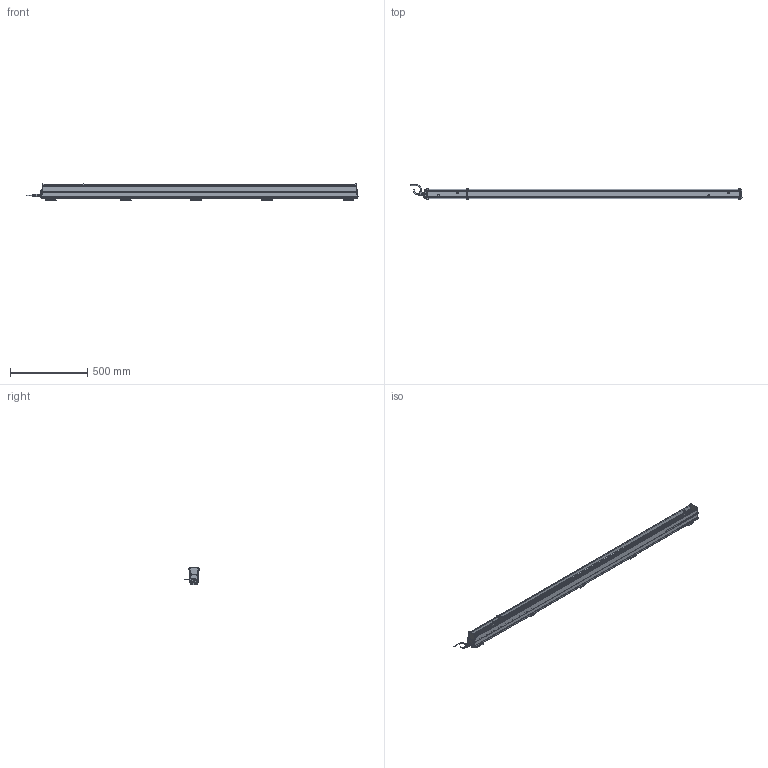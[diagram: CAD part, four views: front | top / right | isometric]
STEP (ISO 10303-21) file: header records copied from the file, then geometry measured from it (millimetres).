
FILE_DESCRIPTION(/* description */ (''),/* implementation_level */ '2;1');
FILE_NAME(/* name */ 'THUNDERION2_3D_1875-2070',/* time_stamp */ '2017-09-28T10:58:41+02:00',/* author */ (''),/* organization */ (''),/* preprocessor_version */ 'ST-DEVELOPER v15.7',/* originating_system */ 'HiCAD 2015 2002.1 Build 408',/* authorisation */ '');
FILE_SCHEMA (('AUTOMOTIVE_DESIGN { 1 0 10303 214 1 1 1 1 }'));
Products named in the file (109): Root; -_ThunderION 1875/2070; -_Side profile; -_Bar; -_Connector straight; EXTRUDED SOLID_0; -_Cord; REVOLVED SOLID_1; REVOLVED SOLID_3; DIN 13-M12x1,5; -_Connector angled; REVOLVED SOLID_2; 4532000100_Mounting bracket bars; -_Side piece; -_Slide piece; -_Bracket small; DIN 13-M3; DIN 76-M3; -_Cable End; light pipe M; light pipe L; -_Cap CE; -_Stud M4; -_Connector M12 male 5 pole_1; -_Contacts; ABSR_1_2_1_1_Inner part; ABSR_1_2_1_2_Inner part; bus; Pg 9; -_Ring tongue terminal; 9230000020_Nut M4; GEWINDE; 9240100020_Spring washer M4; ISO 7051-ST3.5x9.5-C-H_Tapping screws_0; -_Fill; -_Dead end; -_Cap DE; -_Emitter; -_Support Side Profile; -_End Plate
Assembly tree (108 placements, depth 6):
  Root
    -_ThunderION 1875/2070
      -_Side profile
      -_Side profile
      -_Bar
      -_Connector straight
        EXTRUDED SOLID_0
        -_Cord
        REVOLVED SOLID_1
        REVOLVED SOLID_3
          DIN 13-M12x1,5
      -_Connector angled
        REVOLVED SOLID_1
        EXTRUDED SOLID_0
        -_Cord
        REVOLVED SOLID_2
        REVOLVED SOLID_3
          DIN 13-M12x1,5
      4532000100_Mounting bracket bars
        -_Side piece
        -_Side piece
        -_Slide piece
        -_Bracket small
          DIN 13-M3
          DIN 13-M3
          DIN 76-M3
          DIN 76-M3
      4532000100_Mounting bracket bars
        -_Side piece
        -_Side piece
        -_Slide piece
        -_Bracket small
          DIN 13-M3
          DIN 13-M3
          DIN 76-M3
          DIN 76-M3
      4532000100_Mounting bracket bars
        -_Side piece
        -_Side piece
        -_Slide piece
        -_Bracket small
          DIN 13-M3
          DIN 13-M3
          DIN 76-M3
          DIN 76-M3
      4532000100_Mounting bracket bars
        -_Side piece
        -_Side piece
        -_Slide piece
        -_Bracket small
          DIN 13-M3
          DIN 13-M3
          DIN 76-M3
          DIN 76-M3
      4532000100_Mounting bracket bars
        -_Side piece
        -_Side piece
        -_Slide piece
        -_Bracket small
          DIN 13-M3
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Bounding box: 2148.34 x 92.24 x 113 mm (x, y, z)
Volume: 6539151.6 mm3; surface area: 1528151.3 mm2
Topology: 101 solids, 116 shells, 4832 faces, 12403 edges, 7551 vertices
Faces by surface type: plane 2050, cylinder 1878, bspline 280, torus 241, sphere 214, cone 169
Full cylindrical faces by diameter (mm): 0.8 x10, 1 x10, 2.387 x20, 2.5 x1, 2.64 x16, 3 x40, 3.141 x2, 3.5 x8, 4 x26, 4.2 x3, 4.4 x1, 5 x4, 5.5 x25, 7.3 x8, 8 x2, 8.4 x2, 9 x6, 9.6 x1, 10 x2, 10.16 x1, 10.5 x2, 11 x4, 12 x5, 12.8 x1, 13.8 x4, 13.86 x1, 14.5 x3, 15.199 x1, 15.2 x1
Entity records: 292386 total; most frequent: CARTESIAN_POINT 84927, DIRECTION 23857, PRESENTATION_STYLE_ASSIGNMENT 23410, OVER_RIDING_STYLED_ITEM 23313, DRAUGHTING_PRE_DEFINED_CURVE_FONT 23276, CURVE_STYLE 23276, ORIENTED_EDGE 23276, EDGE_CURVE 11638
